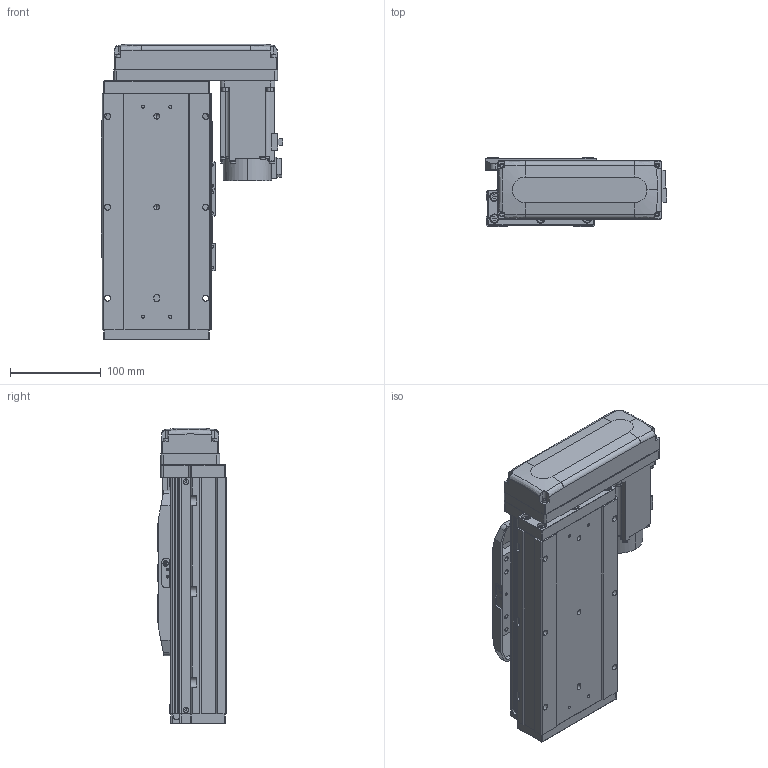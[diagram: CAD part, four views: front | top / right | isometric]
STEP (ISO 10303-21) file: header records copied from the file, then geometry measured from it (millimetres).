
FILE_DESCRIPTION (( 'STEP AP203' ), '1' );
FILE_NAME ('GTH12-50-BL-M40-C4.step', '2023-07-04T10:40:43', ( '微软用户' ), ( '微软中国' ), 'SwSTEP 2.0', 'SolidWorks 2020', '' );
FILE_SCHEMA (( 'CONFIG_CONTROL_DESIGN' ));
Length unit declared in the file: millimetre
Products named in the file (18): GBT 70.3-M3℅8; hg-kn43j_-s100_; GTH120-003; GTH80-022; CTHA86-033_M40B; GTH120-006; GTH80-028; GTH120-027-1_GTH120-027-2; GTH120-004; GTH50-023; GTH12-50-BL-M40-C4; GTH120-013; GTH50-024; GBT 70.1-M3℅6; GBT96.1-2002 3×0.8; GBT 70.1-M5×16; BTH-M3X5X6; GTH120-001_50
Assembly tree (59 placements, depth 2):
  GTH12-50-BL-M40-C4
    GTH120-001_50
    GTH120-003
    GTH120-006
    GTH120-004
    GTH120-013
    GBT 70.1-M3℅6  x14
    GBT 70.1-M5×16  x10
    GBT 70.3-M3℅8  x4
    GTH80-022
    GTH80-028  x2
    GTH50-023  x3
    GTH50-024  x3
    GBT96.1-2002 3×0.8  x6
    BTH-M3X5X6  x8
    hg-kn43j_-s100_
    CTHA86-033_M40B
    GTH120-027-1_GTH120-027-2
Bounding box: 199.8 x 76 x 325.5 mm (x, y, z)
Volume: 2976979.4 mm3; surface area: 382701.8 mm2
Topology: 61 solids, 61 shells, 2313 faces, 5350 edges, 3279 vertices
Faces by surface type: plane 1214, cylinder 643, cone 268, torus 174, sphere 8, bspline 6
Entity records: 41512 total; most frequent: CARTESIAN_POINT 7028, DIRECTION 6810, ORIENTED_EDGE 6310, EDGE_CURVE 3155, AXIS2_PLACEMENT_3D 2382, LINE 2046, VECTOR 2046, VERTEX_POINT 2000
